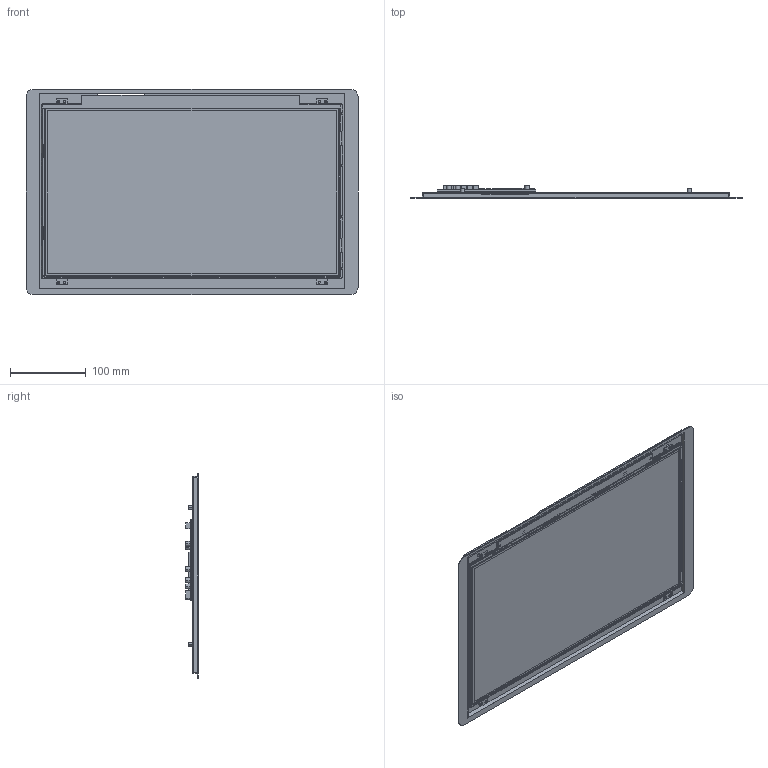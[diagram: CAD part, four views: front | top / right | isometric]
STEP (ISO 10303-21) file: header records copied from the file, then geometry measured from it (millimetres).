
FILE_DESCRIPTION((''),'2;1');
FILE_NAME('DMG19108C173-03WTR','2022-04-28T',('Administrator'),(''),'PRO/ENGINEER BY PARAMETRIC TECHNOLOGY CORPORATION, 2011310','PRO/ENGINEER BY PARAMETRIC TECHNOLOGY CORPORATION, 2011310','');
FILE_SCHEMA(('CONFIG_CONTROL_DESIGN','SHAPE_APPEARANCE_LAYERS_GROUPS'));
Products named in the file (1): DMG19108C173-03WTR
Bounding box: 438.89 x 16.31 x 271.81 mm (x, y, z)
Volume: 430133.4 mm3; surface area: 732186.7 mm2
Topology: 1 solids, 3 shells, 2199 faces, 6561 edges, 4223 vertices
Faces by surface type: plane 1574, cylinder 613, torus 12
Entity records: 76027 total; most frequent: CARTESIAN_POINT 13444, ORIENTED_EDGE 13124, DIRECTION 11970, EDGE_CURVE 6562, VECTOR 5282, LINE 5282, VERTEX_POINT 4224, AXIS2_PLACEMENT_3D 3344
